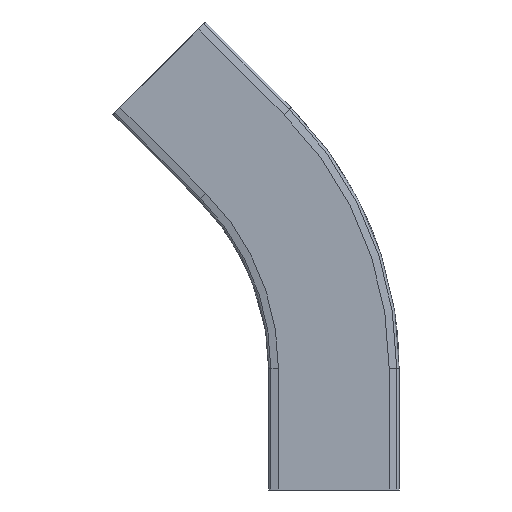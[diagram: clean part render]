
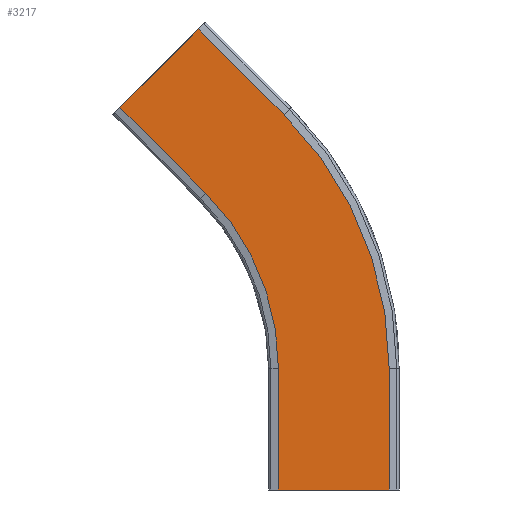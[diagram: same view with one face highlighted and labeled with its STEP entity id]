
A CAD part, front view. The second image highlights one B-rep face of the part: STEP entity #3217.
In plain terms, the highlighted planar face has unit normal (0, -1, 0).
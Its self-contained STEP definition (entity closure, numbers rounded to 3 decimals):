
#327=FACE_OUTER_BOUND('',#499,.T.);
#499=EDGE_LOOP('',(#2925,#2926,#2927,#2928,#2929,#2930,#2931,#2932));
#577=CIRCLE('',#3458,236.5);
#580=CIRCLE('',#3464,163.5);
#894=LINE('',#5553,#1236);
#899=LINE('',#5562,#1241);
#901=LINE('',#5567,#1243);
#916=LINE('',#5607,#1258);
#921=LINE('',#5618,#1263);
#922=LINE('',#5620,#1264);
#1236=VECTOR('',#4203,10.);
#1241=VECTOR('',#4210,10.);
#1243=VECTOR('',#4214,10.);
#1258=VECTOR('',#4255,10.);
#1263=VECTOR('',#4268,10.);
#1264=VECTOR('',#4271,10.);
#1544=VERTEX_POINT('',#5550);
#1545=VERTEX_POINT('',#5552);
#1548=VERTEX_POINT('',#5559);
#1549=VERTEX_POINT('',#5564);
#1559=VERTEX_POINT('',#5590);
#1561=VERTEX_POINT('',#5600);
#1562=VERTEX_POINT('',#5605);
#1564=VERTEX_POINT('',#5616);
#1988=EDGE_CURVE('',#1545,#1544,#894,.T.);
#1993=EDGE_CURVE('',#1545,#1548,#899,.T.);
#1995=EDGE_CURVE('',#1544,#1549,#901,.T.);
#2008=EDGE_CURVE('',#1549,#1559,#577,.T.);
#2014=EDGE_CURVE('',#1548,#1561,#580,.T.);
#2016=EDGE_CURVE('',#1559,#1562,#916,.T.);
#2021=EDGE_CURVE('',#1561,#1564,#921,.T.);
#2022=EDGE_CURVE('',#1562,#1564,#922,.T.);
#2925=ORIENTED_EDGE('',*,*,#2022,.T.);
#2926=ORIENTED_EDGE('',*,*,#2021,.F.);
#2927=ORIENTED_EDGE('',*,*,#2014,.F.);
#2928=ORIENTED_EDGE('',*,*,#1993,.F.);
#2929=ORIENTED_EDGE('',*,*,#1988,.T.);
#2930=ORIENTED_EDGE('',*,*,#1995,.T.);
#2931=ORIENTED_EDGE('',*,*,#2008,.T.);
#2932=ORIENTED_EDGE('',*,*,#2016,.T.);
#3050=PLANE('',#3470);
#3217=ADVANCED_FACE('',(#327),#3050,.T.);
#3458=AXIS2_PLACEMENT_3D('',#5592,#4235,#4236);
#3464=AXIS2_PLACEMENT_3D('',#5603,#4250,#4251);
#3470=AXIS2_PLACEMENT_3D('',#5619,#4269,#4270);
#4203=DIRECTION('',(1.,0.,0.));
#4210=DIRECTION('',(0.,0.,1.));
#4214=DIRECTION('',(0.,0.,1.));
#4235=DIRECTION('center_axis',(0.,-1.,0.));
#4236=DIRECTION('ref_axis',(1.,0.,0.));
#4250=DIRECTION('center_axis',(0.,-1.,0.));
#4251=DIRECTION('ref_axis',(1.,0.,0.));
#4255=DIRECTION('',(-0.707,0.,0.707));
#4268=DIRECTION('',(-0.707,0.,0.707));
#4269=DIRECTION('center_axis',(0.,-1.,0.));
#4270=DIRECTION('ref_axis',(0.707,0.,-0.707));
#4271=DIRECTION('',(-0.707,0.,-0.707));
#5550=CARTESIAN_POINT('',(36.5,-11.,0.));
#5552=CARTESIAN_POINT('',(-36.5,-11.,0.));
#5553=CARTESIAN_POINT('',(-36.5,-11.,0.));
#5559=CARTESIAN_POINT('',(-36.5,-11.,80.));
#5562=CARTESIAN_POINT('',(-36.5,-11.,0.));
#5564=CARTESIAN_POINT('',(36.5,-11.,80.));
#5567=CARTESIAN_POINT('',(36.5,-11.,0.));
#5590=CARTESIAN_POINT('',(-32.769,-11.,247.231));
#5592=CARTESIAN_POINT('Origin',(-200.,-11.,80.));
#5600=CARTESIAN_POINT('',(-84.388,-11.,195.612));
#5603=CARTESIAN_POINT('Origin',(-200.,-11.,80.));
#5605=CARTESIAN_POINT('',(-89.338,-11.,303.799));
#5607=CARTESIAN_POINT('',(134.871,-11.,79.59));
#5616=CARTESIAN_POINT('',(-140.957,-11.,252.181));
#5618=CARTESIAN_POINT('',(83.253,-11.,27.971));
#5619=CARTESIAN_POINT('Origin',(134.871,-11.,79.59));
#5620=CARTESIAN_POINT('',(-101.182,-11.,291.955));
